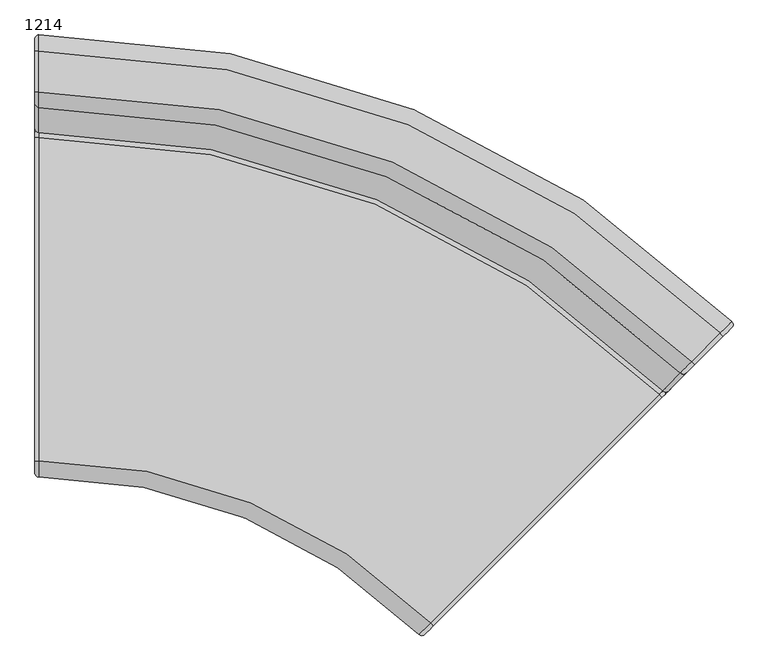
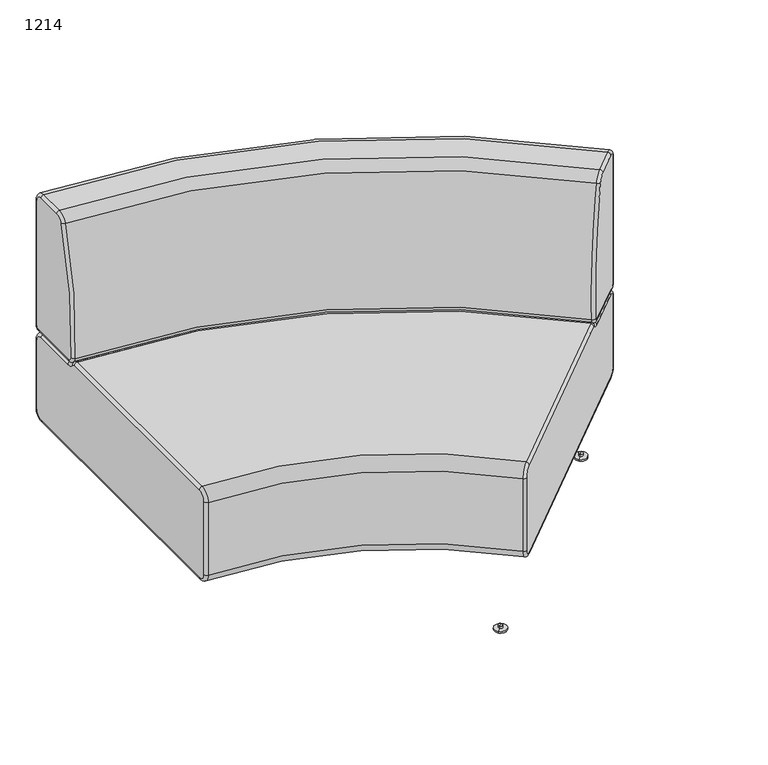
"""IFC4 building model written with IfcOpenShell, lengths in millimetres: furniture geometry, Laguna-Modular-Inside_Curve-ERG : 1214."""

from ifc_helpers import new_model, si_unit, point, frame, frame_2d, origin, place, context, project, spatial, polyline, circle_curve, ellipse_curve, trimmed, segment, composite_curve, outline, extrude, source, transform, mapped, element, save
from ifc_brep_helpers import plane_surface, cylinder_surface, revolved_surface, advanced_brep


def furniture_1214_7c59c296(model_context):
    return source(origin(), model_context, "Body", "SolidModel", [
        extrude(outline(composite_curve([segment(polyline([(-4215.8757096, 588.869549), (-4258.0829133, 631.0767528)]), True, "CONTINUOUS"), segment(trimmed(circle_curve(frame_2d((-4254.4908109, 634.6688552)), 5.08), [point((-4258.0829133, 631.0767528))], [point((-4258.0829133, 638.2609577))], False, "CARTESIAN"), True, "CONTINUOUS"), segment(polyline([(-4258.0829133, 638.2609577), (-4230.2441194, 666.0997517)]), True, "CONTINUOUS"), segment(trimmed(circle_curve(frame_2d((-4226.6520169, 662.5076492)), 5.08), [point((-4230.2441194, 666.0997517))], [point((-4223.0599145, 666.0997517))], False, "CARTESIAN"), True, "CONTINUOUS"), segment(polyline([(-4223.0599145, 666.0997517), (-4180.8527107, 623.8925479)]), True, "CONTINUOUS"), segment(trimmed(circle_curve(frame_2d((-4184.4448131, 620.3004454)), 5.08), [point((-4180.8527107, 623.8925479))], [point((-4180.8527107, 616.708343))], False, "CARTESIAN"), True, "CONTINUOUS"), segment(polyline([(-4180.8527107, 616.708343), (-4208.6915047, 588.869549)]), True, "CONTINUOUS"), segment(trimmed(circle_curve(frame_2d((-4212.2836071, 592.4616515)), 5.08), [point((-4208.6915047, 588.869549))], [point((-4215.8757096, 588.869549))], False, "CARTESIAN"), True, "CONTINUOUS")], self_intersect=False)), frame((0.0, 0.0, 200.66), z_axis=(0.0, 0.0, 1.0), x_axis=(1.0, 0.0, 0.0)), (0.0, 0.0, 1.0), 2.54),
        extrude(outline(composite_curve([segment(polyline([(-3832.6671258, 972.0781328), (-3874.8743295, 1014.2853366)]), True, "CONTINUOUS"), segment(trimmed(circle_curve(frame_2d((-3871.2822271, 1017.877439)), 5.08), [point((-3874.8743295, 1014.2853366))], [point((-3874.8743295, 1021.4695415))], False, "CARTESIAN"), True, "CONTINUOUS"), segment(polyline([(-3874.8743295, 1021.4695415), (-3847.0355356, 1049.3083354)]), True, "CONTINUOUS"), segment(trimmed(circle_curve(frame_2d((-3843.4434331, 1045.716233)), 5.08), [point((-3847.0355356, 1049.3083354))], [point((-3839.8513307, 1049.3083354))], False, "CARTESIAN"), True, "CONTINUOUS"), segment(polyline([(-3839.8513307, 1049.3083354), (-3797.6441269, 1007.1011317)]), True, "CONTINUOUS"), segment(trimmed(circle_curve(frame_2d((-3801.2362294, 1003.5090292)), 5.08), [point((-3797.6441269, 1007.1011317))], [point((-3797.6441269, 999.9169268))], False, "CARTESIAN"), True, "CONTINUOUS"), segment(polyline([(-3797.6441269, 999.9169268), (-3825.4829209, 972.0781328)]), True, "CONTINUOUS"), segment(trimmed(circle_curve(frame_2d((-3829.0750233, 975.6702353)), 5.08), [point((-3825.4829209, 972.0781328))], [point((-3832.6671258, 972.0781328))], False, "CARTESIAN"), True, "CONTINUOUS")], self_intersect=False)), frame((0.0, 0.0, 200.66), z_axis=(0.0, 0.0, 1.0), x_axis=(1.0, 0.0, 0.0)), (0.0, 0.0, 1.0), 2.54),
        extrude(outline(composite_curve([segment(trimmed(circle_curve(frame_2d((-4739.5606322, 875.9836827)), 5.08), [point((-4739.5606322, 881.0636827))], [point((-4734.4806322, 875.9836827))], False, "CARTESIAN"), True, "CONTINUOUS"), segment(polyline([(-4734.4806322, 875.9836827), (-4734.4806322, 836.6136827)]), True, "CONTINUOUS"), segment(trimmed(circle_curve(frame_2d((-4739.5606322, 836.6136827)), 5.08), [point((-4734.4806322, 836.6136827))], [point((-4739.5606322, 831.5336827))], False, "CARTESIAN"), True, "CONTINUOUS"), segment(polyline([(-4739.5606322, 831.5336827), (-4799.2506322, 831.5336827)]), True, "CONTINUOUS"), segment(trimmed(circle_curve(frame_2d((-4799.2506322, 836.6136827)), 5.08), [point((-4799.2506322, 831.5336827))], [point((-4804.3306322, 836.6136827))], False, "CARTESIAN"), True, "CONTINUOUS"), segment(polyline([(-4804.3306322, 836.6136827), (-4804.3306322, 875.9836827)]), True, "CONTINUOUS"), segment(trimmed(circle_curve(frame_2d((-4799.2506322, 875.9836827)), 5.08), [point((-4804.3306322, 875.9836827))], [point((-4799.2506322, 881.0636827))], False, "CARTESIAN"), True, "CONTINUOUS"), segment(polyline([(-4799.2506322, 881.0636827), (-4739.5606322, 881.0636827)]), True, "CONTINUOUS")], self_intersect=False)), frame((0.0, 0.0, 200.66), z_axis=(0.0, 0.0, 1.0), x_axis=(1.0, 0.0, 0.0)), (0.0, 0.0, 1.0), 2.54),
        extrude(outline(composite_curve([segment(trimmed(circle_curve(frame_2d((-4739.5606322, 1416.9001303)), 5.08), [point((-4739.5606322, 1421.9801303))], [point((-4734.4806322, 1416.9001303))], False, "CARTESIAN"), True, "CONTINUOUS"), segment(polyline([(-4734.4806322, 1416.9001303), (-4734.4806322, 1377.5301303)]), True, "CONTINUOUS"), segment(trimmed(circle_curve(frame_2d((-4739.5606322, 1377.5301303)), 5.08), [point((-4734.4806322, 1377.5301303))], [point((-4739.5606322, 1372.4501303))], False, "CARTESIAN"), True, "CONTINUOUS"), segment(polyline([(-4739.5606322, 1372.4501303), (-4799.2506322, 1372.4501303)]), True, "CONTINUOUS"), segment(trimmed(circle_curve(frame_2d((-4799.2506322, 1377.5301303)), 5.08), [point((-4799.2506322, 1372.4501303))], [point((-4804.3306322, 1377.5301303))], False, "CARTESIAN"), True, "CONTINUOUS"), segment(polyline([(-4804.3306322, 1377.5301303), (-4804.3306322, 1416.9001303)]), True, "CONTINUOUS"), segment(trimmed(circle_curve(frame_2d((-4799.2506322, 1416.9001303)), 5.08), [point((-4804.3306322, 1416.9001303))], [point((-4799.2506322, 1421.9801303))], False, "CARTESIAN"), True, "CONTINUOUS"), segment(polyline([(-4799.2506322, 1421.9801303), (-4739.5606322, 1421.9801303)]), True, "CONTINUOUS")], self_intersect=False)), frame((0.0, 0.0, 200.66), z_axis=(0.0, 0.0, 1.0), x_axis=(1.0, 0.0, 0.0)), (0.0, 0.0, 1.0), 2.54),
        advanced_brep(
        [(-4832.9053779, 780.0986827, 228.6), (-4826.5553779, 773.7486827, 228.6), (-4826.5553779, 773.7486827, 406.4), (-4832.9053779, 780.0986827, 406.4), (-4832.9053779, 799.1486827, 425.45), (-4826.5553779, 799.1486827, 431.8), (-4826.5553779, 1301.2233489, 431.8), (-4832.9053779, 1301.2233489, 425.45), (-4826.5553779, 1312.6430873, 426.1507973), (-4832.9053779, 1307.5957246, 422.2976649), (-4826.5553779, 1326.8961182, 419.1), (-4832.9053779, 1326.8961182, 412.75), (-4826.5553779, 1435.2886296, 419.1), (-4832.9053779, 1435.2886296, 412.75), (-4826.5553779, 1460.6886296, 393.7), (-4832.9053779, 1454.3386296, 393.7), (-4826.5553779, 1460.6886296, 228.6), (-4832.9053779, 1454.3386296, 228.6), (-4826.5553779, 1435.2886296, 203.2), (-4832.9053779, 1435.2886296, 209.55), (-4826.5553779, 799.1486827, 203.2), (-4832.9053779, 799.1486827, 209.55), (-3863.7246952, 902.4058218, 431.8), (-4218.7450963, 547.3854207, 431.8), (-3855.6497206, 910.4807963, 426.1507973), (-3845.5713058, 920.5592111, 419.1), (-3768.9262375, 997.2042795, 419.1), (-3750.9657138, 1015.1648032, 393.7), (-3750.9657138, 1015.1648032, 228.6000108), (-3768.926226, 997.2042909, 203.2), (-4218.7450963, 547.3854207, 203.2), (-4236.7056085, 529.4249085, 406.4), (-4236.7056085, 529.4249085, 228.6), (-3764.436098, 992.7141629, 209.55), (-3750.9657138, 1006.184547, 228.6), (-3750.9657138, 1006.184547, 393.7), (-3764.436098, 992.7141629, 412.75), (-3841.0811778, 916.0690831, 412.75), (-3854.728617, 902.4216438, 422.2976649), (-3859.2345671, 897.9156937, 425.45), (-4214.2549682, 542.8952926, 425.45), (-4227.7253524, 529.4249085, 406.4), (-4227.7253524, 529.4249085, 228.6), (-4214.2549682, 542.8952926, 209.55)],
        [
            (0, 1, circle_curve(frame((-4826.5553779, 780.0986827, 228.6), z_axis=(0.0, 0.0, 1.0), x_axis=(0.0, 1.0, 0.0)), 6.35)),
            (1, 2),
            (2, 3, circle_curve(frame((-4826.5553779, 780.0986827, 406.4), z_axis=(0.0, 0.0, -1.0), x_axis=(0.0, 1.0, 0.0)), 6.35)),
            (3, 0),
            (4, 5, circle_curve(frame((-4826.5553779, 799.1486827, 425.45), z_axis=(0.0, 1.0, 0.0), x_axis=(0.0, 0.0, -1.0)), 6.35)),
            (5, 6),
            (6, 7, circle_curve(frame((-4826.5553779, 1301.2233489, 425.45), z_axis=(0.0, -1.0, 0.0), x_axis=(0.0, 0.0, -1.0)), 6.35)),
            (7, 4),
            (6, 8, circle_curve(frame((-4826.5553779, 1301.2233489, 417.4330241), z_axis=(-1.0, 0.0, 0.0), x_axis=(0.0, 0.0, 1.0)), 14.3669759)),
            (8, 9, circle_curve(frame((-4826.5553779, 1307.5957246, 422.2976649), z_axis=(0.0, -0.6067924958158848, 0.7948602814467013), x_axis=(0.0, -0.7948602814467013, -0.6067924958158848)), 6.35)),
            (9, 7, circle_curve(frame((-4832.9053779, 1301.2233489, 417.4330241), z_axis=(1.0, 0.0, 0.0), x_axis=(0.0, 0.0, 1.0)), 8.0169759)),
            (8, 10, circle_curve(frame((-4826.5553779, 1326.8961182, 437.0314921), z_axis=(1.0, 0.0, 0.0), x_axis=(0.0, -0.7948602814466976, -0.6067924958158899)), 17.9314921)),
            (10, 11, circle_curve(frame((-4826.5553779, 1326.8961182, 412.75), z_axis=(0.0, -1.0, 0.0), x_axis=(0.0, 0.0, -1.0)), 6.35)),
            (11, 9, circle_curve(frame((-4832.9053779, 1326.8961182, 437.0314921), z_axis=(-1.0, 0.0, 0.0), x_axis=(0.0, -0.7948602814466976, -0.6067924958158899)), 24.2814921)),
            (10, 12),
            (12, 13, circle_curve(frame((-4826.5553779, 1435.2886296, 412.75), z_axis=(0.0, -1.0, 0.0), x_axis=(0.0, 0.0, -1.0)), 6.35)),
            (13, 11),
            (12, 14, circle_curve(frame((-4826.5553779, 1435.2886296, 393.7), z_axis=(-1.0, 0.0, 0.0), x_axis=(0.0, 0.0, 1.0)), 25.4)),
            (14, 15, circle_curve(frame((-4826.5553779, 1454.3386296, 393.7), z_axis=(0.0, 0.0, 1.0), x_axis=(0.0, -1.0, 0.0)), 6.35)),
            (15, 13, circle_curve(frame((-4832.9053779, 1435.2886296, 393.7), z_axis=(1.0, 0.0, 0.0), x_axis=(0.0, 0.0, 1.0)), 19.05)),
            (14, 16),
            (16, 17, circle_curve(frame((-4826.5553779, 1454.3386296, 228.6), z_axis=(0.0, 0.0, 1.0), x_axis=(0.0, -1.0, 0.0)), 6.35)),
            (17, 15),
            (16, 18, circle_curve(frame((-4826.5553779, 1435.2886296, 228.6), z_axis=(-1.0, 0.0, 0.0), x_axis=(0.0, 1.0, 0.0)), 25.4)),
            (18, 19, circle_curve(frame((-4826.5553779, 1435.2886296, 209.55), z_axis=(0.0, 1.0, 0.0), x_axis=(0.0, 0.0, 1.0)), 6.35)),
            (19, 17, circle_curve(frame((-4832.9053779, 1435.2886296, 228.6), z_axis=(1.0, 0.0, 0.0), x_axis=(0.0, 1.0, 0.0)), 19.05)),
            (18, 20),
            (20, 21, circle_curve(frame((-4826.5553779, 799.1486827, 209.55), z_axis=(0.0, 1.0, 0.0), x_axis=(0.0, 0.0, 1.0)), 6.35)),
            (21, 19),
            (2, 5, circle_curve(frame((-4826.5553779, 799.1486827, 406.4), z_axis=(-1.0, 0.0, 0.0), x_axis=(0.0, -1.0, 0.0)), 25.4)),
            (4, 3, circle_curve(frame((-4832.9053779, 799.1486827, 406.4), z_axis=(1.0, 0.0, 0.0), x_axis=(0.0, -1.0, 0.0)), 19.05)),
            (0, 21, circle_curve(frame((-4832.9053779, 799.1486827, 228.6), z_axis=(1.0, 0.0, 0.0), x_axis=(0.0, 0.0, -1.0)), 19.05)),
            (20, 1, circle_curve(frame((-4826.5553779, 799.1486827, 228.6), z_axis=(-1.0, 0.0, 0.0), x_axis=(0.0, 0.0, -1.0)), 25.4)),
            (22, 6, circle_curve(frame((-4826.5553779, -60.4248609, 431.8), z_axis=(0.0, 0.0, 1.0), x_axis=(0.0, 1.0, 0.0)), 1361.6482098)),
            (5, 23, circle_curve(frame((-4826.5553779, -60.4248609, 431.8), z_axis=(0.0, 0.0, -1.0), x_axis=(0.0, 1.0, 0.0)), 859.5735436)),
            (23, 22),
            (22, 24, circle_curve(frame((-3863.7246952, 902.4058218, 417.4330241), z_axis=(-0.7071067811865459, 0.7071067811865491, 0.0), x_axis=(0.7071067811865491, 0.7071067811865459, 0.0)), 14.3669759)),
            (24, 8, circle_curve(frame((-4826.5553779, -60.4248609, 426.1507973), z_axis=(0.0, 0.0, 1.0), x_axis=(0.0, 1.0, 0.0)), 1373.0679482)),
            (24, 25, circle_curve(frame((-3845.5713058, 920.5592111, 437.0314921), z_axis=(0.7071067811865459, -0.7071067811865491, 0.0), x_axis=(0.7071067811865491, 0.7071067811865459, 0.0)), 17.9314921)),
            (25, 10, circle_curve(frame((-4826.5553779, -60.4248609, 419.1), z_axis=(0.0, 0.0, 1.0), x_axis=(0.0, 1.0, 0.0)), 1387.3209791)),
            (25, 26),
            (26, 12, circle_curve(frame((-4826.5553779, -60.4248609, 419.1), z_axis=(0.0, 0.0, 1.0), x_axis=(0.0, 1.0, 0.0)), 1495.7134905)),
            (26, 27, circle_curve(frame((-3768.926226, 997.2042909, 393.7), z_axis=(-0.7071067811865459, 0.7071067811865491, 0.0), x_axis=(0.7071067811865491, 0.7071067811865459, 0.0)), 25.4)),
            (27, 14, circle_curve(frame((-4826.5553779, -60.4248609, 393.7), z_axis=(0.0, 0.0, 1.0), x_axis=(0.0, 1.0, 0.0)), 1521.1134905)),
            (27, 28),
            (28, 16, circle_curve(frame((-4826.5553779, -60.4248609, 228.6), z_axis=(0.0, 0.0, 1.0), x_axis=(0.0, 1.0, 0.0)), 1521.1134905)),
            (28, 29, circle_curve(frame((-3768.926226, 997.2042909, 228.6), z_axis=(-0.7071067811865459, 0.7071067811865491, 0.0), x_axis=(0.7071067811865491, 0.7071067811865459, 0.0)), 25.4)),
            (29, 18, circle_curve(frame((-4826.5553779, -60.4248609, 203.2), z_axis=(0.0, 0.0, 1.0), x_axis=(0.0, 1.0, 0.0)), 1495.7134905)),
            (29, 30),
            (30, 20, circle_curve(frame((-4826.5553779, -60.4248609, 203.2), z_axis=(0.0, 0.0, 1.0), x_axis=(0.0, 1.0, 0.0)), 859.5735436)),
            (31, 2, circle_curve(frame((-4826.5553779, -60.4248609, 406.4), z_axis=(0.0, 0.0, 1.0), x_axis=(0.0, 1.0, 0.0)), 834.1735436)),
            (1, 32, circle_curve(frame((-4826.5553779, -60.4248609, 228.6), z_axis=(0.0, 0.0, -1.0), x_axis=(0.0, 1.0, 0.0)), 834.1735436)),
            (32, 31),
            (31, 23, circle_curve(frame((-4218.7450963, 547.3854207, 406.4), z_axis=(-0.7071067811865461, 0.7071067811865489, 0.0), x_axis=(0.7071067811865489, 0.7071067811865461, 0.0)), 25.4)),
            (30, 32, circle_curve(frame((-4218.7450963, 547.3854207, 228.6), z_axis=(-0.7071067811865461, 0.7071067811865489, 0.0), x_axis=(0.7071067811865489, 0.7071067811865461, 0.0)), 25.4)),
            (33, 29, circle_curve(frame((-3768.926226, 997.2042909, 209.55), z_axis=(0.7071067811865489, 0.7071067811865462, 0.0), x_axis=(0.0, 0.0, 1.0)), 6.35)),
            (28, 34, circle_curve(frame((-3755.4558419, 1010.6746751, 228.6), z_axis=(0.0, 0.0, -1.0), x_axis=(-0.7071067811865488, -0.7071067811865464, 0.0)), 6.35)),
            (34, 33, circle_curve(frame((-3764.436098, 992.7141629, 228.6), z_axis=(-0.7071067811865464, 0.7071067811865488, 0.0), x_axis=(0.0, 0.0, -1.0)), 19.05)),
            (27, 35, circle_curve(frame((-3755.4558419, 1010.6746751, 393.7), z_axis=(0.0, 0.0, -1.0), x_axis=(-0.7071067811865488, -0.7071067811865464, 0.0)), 6.35)),
            (35, 34),
            (26, 36, circle_curve(frame((-3768.926226, 997.2042909, 412.75), z_axis=(0.7071067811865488, 0.7071067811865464, 0.0), x_axis=(0.0, 0.0, -1.0)), 6.35)),
            (36, 35, circle_curve(frame((-3764.436098, 992.7141629, 393.7), z_axis=(-0.7071067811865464, 0.7071067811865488, 0.0), x_axis=(0.7071067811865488, 0.7071067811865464, 0.0)), 19.05)),
            (25, 37, circle_curve(frame((-3845.5713058, 920.5592111, 412.75), z_axis=(0.7071067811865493, 0.7071067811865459, 0.0), x_axis=(0.0, 0.0, -1.0)), 6.35)),
            (37, 36),
            (24, 38, circle_curve(frame((-3859.2187451, 906.9117719, 422.2976649), z_axis=(0.4290670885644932, 0.4290670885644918, -0.7948602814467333), x_axis=(-0.5620510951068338, -0.5620510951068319, -0.6067924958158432)), 6.35)),
            (38, 37, circle_curve(frame((-3841.0811778, 916.0690831, 437.0314921), z_axis=(0.7071067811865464, -0.7071067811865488, 0.0), x_axis=(0.0, 0.0, -1.0)), 24.2814921)),
            (22, 39, circle_curve(frame((-3863.7246952, 902.4058218, 425.45), z_axis=(0.7071067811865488, 0.7071067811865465, 0.0), x_axis=(0.0, 0.0, -1.0)), 6.35)),
            (39, 38, circle_curve(frame((-3859.2345671, 897.9156937, 417.4330241), z_axis=(-0.7071067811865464, 0.7071067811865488, 0.0), x_axis=(0.5620510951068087, 0.5620510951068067, 0.6067924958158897)), 8.0169759)),
            (23, 40, circle_curve(frame((-4218.7450963, 547.3854207, 425.45), z_axis=(0.7071067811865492, 0.7071067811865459, 0.0), x_axis=(0.0, 0.0, -1.0)), 6.35)),
            (40, 39),
            (41, 31, circle_curve(frame((-4232.2154804, 533.9150365, 406.4), z_axis=(0.0, 0.0, -1.0), x_axis=(0.7071067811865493, 0.7071067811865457, 0.0)), 6.35)),
            (32, 42, circle_curve(frame((-4232.2154804, 533.9150365, 228.6), z_axis=(0.0, 0.0, 1.0), x_axis=(0.7071067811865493, 0.7071067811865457, 0.0)), 6.35)),
            (42, 41),
            (33, 43),
            (43, 30, circle_curve(frame((-4218.7450963, 547.3854207, 209.55), z_axis=(0.7071067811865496, 0.7071067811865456, 0.0), x_axis=(0.0, 0.0, 1.0)), 6.35)),
            (41, 40, circle_curve(frame((-4214.2549682, 542.8952926, 406.4), z_axis=(-0.7071067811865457, 0.7071067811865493, 0.0), x_axis=(0.0, 0.0, 1.0)), 19.05)),
            (43, 42, circle_curve(frame((-4214.2549682, 542.8952926, 228.6), z_axis=(-0.7071067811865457, 0.7071067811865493, 0.0), x_axis=(-0.7071067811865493, -0.7071067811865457, 0.0)), 19.05)),
        ],
        [
            cylinder_surface(frame((-4826.5553779, 780.0986827, 228.6), z_axis=(0.0, 0.0, -1.0), x_axis=(0.0, 1.0, 0.0)), 6.35),
            cylinder_surface(frame((-4826.5553779, 799.1486827, 425.45), z_axis=(0.0, -1.0, 0.0), x_axis=(0.0, 0.0, -1.0)), 6.35),
            revolved_surface(trimmed(ellipse_curve(frame((-4826.5553779, 1301.2233489, 425.45), z_axis=(0.0, -1.0, 0.0), x_axis=(0.0, 0.0, -1.0)), 6.35, 6.35), [point((-4826.5553779, 1301.2233489, 431.8))], [point((-4832.9053779, 1301.2233489, 425.45))], True, "CARTESIAN"), (-4826.5553779, 1301.2233489, 417.4330241), (-1.0, 0.0, 0.0)),
            revolved_surface(trimmed(ellipse_curve(frame((-4826.5553779, 1307.5957246, 422.2976649), z_axis=(0.0, -0.6067924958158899, 0.7948602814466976), x_axis=(0.0, -0.7948602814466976, -0.6067924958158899)), 6.35, 6.35), [point((-4826.5553779, 1312.6430873, 426.1507973))], [point((-4832.9053779, 1307.5957246, 422.2976649))], True, "CARTESIAN"), (-4826.5553779, 1326.8961182, 437.0314921), (1.0, 0.0, 0.0)),
            cylinder_surface(frame((-4826.5553779, 1326.8961182, 412.75), z_axis=(0.0, -1.0, 0.0), x_axis=(0.0, 0.0, -1.0)), 6.35),
            revolved_surface(trimmed(ellipse_curve(frame((-4826.5553779, 1435.2886296, 412.75), z_axis=(0.0, -1.0, 0.0), x_axis=(0.0, 0.0, -1.0)), 6.35, 6.35), [point((-4826.5553779, 1435.2886296, 419.1))], [point((-4832.9053779, 1435.2886296, 412.75))], True, "CARTESIAN"), (-4826.5553779, 1435.2886296, 393.7), (-1.0, 0.0, 0.0)),
            cylinder_surface(frame((-4826.5553779, 1454.3386296, 393.7), z_axis=(0.0, 0.0, 1.0), x_axis=(0.0, -1.0, 0.0)), 6.35),
            revolved_surface(trimmed(ellipse_curve(frame((-4826.5553779, 1454.3386296, 228.6), z_axis=(0.0, 0.0, 1.0), x_axis=(0.0, -1.0, 0.0)), 6.35, 6.35), [point((-4826.5553779, 1460.6886296, 228.6))], [point((-4832.9053779, 1454.3386296, 228.6))], True, "CARTESIAN"), (-4826.5553779, 1435.2886296, 228.6), (-1.0, 0.0, 0.0)),
            cylinder_surface(frame((-4826.5553779, 1435.2886296, 209.55), z_axis=(0.0, 1.0, 0.0), x_axis=(0.0, 0.0, 1.0)), 6.35),
            revolved_surface(trimmed(ellipse_curve(frame((-4826.5553779, 780.0986827, 406.4), z_axis=(0.0, 0.0, -1.0), x_axis=(0.0, 1.0, 0.0)), 6.35, 6.35), [point((-4826.5553779, 773.7486827, 406.4))], [point((-4832.9053779, 780.0986827, 406.4))], True, "CARTESIAN"), (-4826.5553779, 799.1486827, 406.4), (-1.0, 0.0, 0.0)),
            revolved_surface(trimmed(ellipse_curve(frame((-4826.5553779, 799.1486827, 209.55), z_axis=(0.0, 1.0, 0.0), x_axis=(0.0, 0.0, 1.0)), 6.35, 6.35), [point((-4826.5553779, 799.1486827, 203.2))], [point((-4832.9053779, 799.1486827, 209.55))], True, "CARTESIAN"), (-4826.5553779, 799.1486827, 228.6), (-1.0, 0.0, 0.0)),
            plane_surface(frame((-4832.9053779, 1454.3386296, 228.6), z_axis=(-1.0, 0.0, 0.0), x_axis=(0.0, 0.0, -1.0))),
            plane_surface(frame((-4826.5553779, -60.4248609, 431.8), z_axis=(0.0, 0.0, 1.0), x_axis=(0.0, 1.0, 0.0))),
            revolved_surface(trimmed(ellipse_curve(frame((-4826.5553779, 1301.2233489, 417.4330241), z_axis=(-1.0, 0.0, 0.0), x_axis=(0.0, 1.0, 0.0)), 14.3669759, 14.3669759), [point((-4826.5553779, 1301.2233489, 431.8))], [point((-4826.5553779, 1312.6430873, 426.1507973))], True, "CARTESIAN"), (-4826.5553779, -60.4248609, 0.0), (0.0, 0.0, -1.0)),
            revolved_surface(trimmed(ellipse_curve(frame((-4826.5553779, 1326.8961182, 437.0314921), z_axis=(1.0, 0.0, 0.0), x_axis=(0.0, 1.0, 0.0)), 17.9314921, 17.9314921), [point((-4826.5553779, 1312.6430873, 426.1507973))], [point((-4826.5553779, 1326.8961182, 419.1))], True, "CARTESIAN"), (-4826.5553779, -60.4248609, 0.0), (0.0, 0.0, -1.0)),
            plane_surface(frame((-4826.5553779, -60.4248609, 419.1), z_axis=(0.0, 0.0, 1.0), x_axis=(0.0, 1.0, 0.0))),
            revolved_surface(trimmed(ellipse_curve(frame((-4826.5553779, 1435.2886296, 393.7), z_axis=(-1.0, 0.0, 0.0), x_axis=(0.0, 1.0, 0.0)), 25.4, 25.4), [point((-4826.5553779, 1435.2886296, 419.1))], [point((-4826.5553779, 1460.6886296, 393.7))], True, "CARTESIAN"), (-4826.5553779, -60.4248609, 0.0), (0.0, 0.0, -1.0)),
            cylinder_surface(frame((-4826.5553779, -60.4248609, 0.0), z_axis=(0.0, 0.0, -1.0), x_axis=(0.0, 1.0, 0.0)), 1521.1134905),
            revolved_surface(trimmed(ellipse_curve(frame((-4826.5553779, 1435.2886296, 228.6), z_axis=(-1.0, 0.0, 0.0), x_axis=(0.0, 1.0, 0.0)), 25.4, 25.4), [point((-4826.5553779, 1460.6886296, 228.6))], [point((-4826.5553779, 1435.2886296, 203.2))], True, "CARTESIAN"), (-4826.5553779, -60.4248609, 0.0), (0.0, 0.0, -1.0)),
            plane_surface(frame((-4826.5553779, -60.4248609, 203.2), z_axis=(0.0, 0.0, -1.0), x_axis=(0.0, 1.0, 0.0))),
            revolved_surface(polyline([(-4826.5553779, 773.7486827, 228.6), (-4826.5553779, 773.7486827, 406.4)]), (-4826.5553779, -60.4248609, 0.0), (0.0, 0.0, -1.0)),
            revolved_surface(trimmed(ellipse_curve(frame((-4826.5553779, 799.1486827, 406.4), z_axis=(-1.0, 0.0, 0.0), x_axis=(0.0, 1.0, 0.0)), 25.4, 25.4), [point((-4826.5553779, 773.7486827, 406.4))], [point((-4826.5553779, 799.1486827, 431.8))], True, "CARTESIAN"), (-4826.5553779, -60.4248609, 0.0), (0.0, 0.0, -1.0)),
            revolved_surface(trimmed(ellipse_curve(frame((-4826.5553779, 799.1486827, 228.6), z_axis=(-1.0, 0.0, 0.0), x_axis=(0.0, 1.0, 0.0)), 25.4, 25.4), [point((-4826.5553779, 799.1486827, 203.2))], [point((-4826.5553779, 773.7486827, 228.6))], True, "CARTESIAN"), (-4826.5553779, -60.4248609, 0.0), (0.0, 0.0, -1.0)),
            revolved_surface(trimmed(ellipse_curve(frame((-3768.926226, 997.2042909, 209.55), z_axis=(-0.7071067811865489, -0.7071067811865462, 0.0), x_axis=(0.0, 0.0, 1.0)), 6.35, 6.35), [point((-3768.926226, 997.2042909, 203.2))], [point((-3764.436098, 992.7141629, 209.55))], True, "CARTESIAN"), (-3768.926226, 997.2042909, 228.6), (0.7071067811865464, -0.7071067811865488, 0.0)),
            cylinder_surface(frame((-3755.4558419, 1010.6746751, 228.6), z_axis=(0.0, 0.0, -1.0), x_axis=(-0.7071067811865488, -0.7071067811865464, 0.0)), 6.35),
            revolved_surface(trimmed(ellipse_curve(frame((-3755.4558419, 1010.6746751, 393.7), z_axis=(0.0, 0.0, -1.0), x_axis=(-0.7071067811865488, -0.7071067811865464, 0.0)), 6.35, 6.35), [point((-3750.9657138, 1015.1648032, 393.7))], [point((-3750.9657138, 1006.184547, 393.7))], True, "CARTESIAN"), (-3768.926226, 997.2042909, 393.7), (0.7071067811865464, -0.7071067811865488, 0.0)),
            cylinder_surface(frame((-3768.926226, 997.2042909, 412.75), z_axis=(0.7071067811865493, 0.7071067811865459, 0.0), x_axis=(0.0, 0.0, -1.0)), 6.35),
            revolved_surface(trimmed(ellipse_curve(frame((-3845.5713058, 920.5592111, 412.75), z_axis=(0.7071067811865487, 0.7071067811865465, 0.0), x_axis=(0.0, 0.0, -1.0)), 6.35, 6.35), [point((-3845.5713058, 920.5592111, 419.1))], [point((-3841.0811778, 916.0690831, 412.75))], True, "CARTESIAN"), (-3845.5713058, 920.5592111, 437.0314921), (-0.7071067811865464, 0.7071067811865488, 0.0)),
            revolved_surface(trimmed(ellipse_curve(frame((-3859.2187451, 906.9117719, 422.2976649), z_axis=(0.4290670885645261, 0.4290670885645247, -0.7948602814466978), x_axis=(-0.5620510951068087, -0.5620510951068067, -0.6067924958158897)), 6.35, 6.35), [point((-3855.6497206, 910.4807963, 426.1507973))], [point((-3854.728617, 902.4216438, 422.2976649))], True, "CARTESIAN"), (-3863.7246952, 902.4058218, 417.4330241), (0.7071067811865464, -0.7071067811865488, 0.0)),
            cylinder_surface(frame((-3863.7246952, 902.4058218, 425.45), z_axis=(0.7071067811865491, 0.7071067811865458, 0.0), x_axis=(0.0, 0.0, -1.0)), 6.35),
            cylinder_surface(frame((-4232.2154804, 533.9150365, 406.4), z_axis=(0.0, 0.0, 1.0), x_axis=(0.7071067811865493, 0.7071067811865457, 0.0)), 6.35),
            cylinder_surface(frame((-4218.7450963, 547.3854207, 209.55), z_axis=(-0.7071067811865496, -0.7071067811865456, 0.0), x_axis=(0.0, 0.0, 1.0)), 6.35),
            revolved_surface(trimmed(ellipse_curve(frame((-4218.7450963, 547.3854207, 425.45), z_axis=(0.7071067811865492, 0.7071067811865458, 0.0), x_axis=(0.0, 0.0, -1.0)), 6.35, 6.35), [point((-4218.7450963, 547.3854207, 431.8))], [point((-4214.2549682, 542.8952926, 425.45))], True, "CARTESIAN"), (-4218.7450963, 547.3854207, 406.4), (0.7071067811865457, -0.7071067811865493, 0.0)),
            revolved_surface(trimmed(ellipse_curve(frame((-4232.2154804, 533.9150365, 228.6), z_axis=(0.0, 0.0, 1.0), x_axis=(0.7071067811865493, 0.7071067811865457, 0.0)), 6.35, 6.35), [point((-4236.7056085, 529.4249085, 228.6))], [point((-4227.7253524, 529.4249085, 228.6))], True, "CARTESIAN"), (-4218.7450963, 547.3854207, 228.6), (0.7071067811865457, -0.7071067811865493, 0.0)),
            plane_surface(frame((-4214.2549682, 542.8952926, 425.45), z_axis=(0.7071067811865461, -0.707106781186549, 0.0), x_axis=(-0.707106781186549, -0.7071067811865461, 0.0))),
        ],
        [
            (0, [[1, 2, 3, 4]]),
            (1, [[5, 6, 7, 8]]),
            (2, [[-7, 9, 10, 11]]),
            (3, [[-10, 12, 13, 14]]),
            (4, [[-13, 15, 16, 17]]),
            (5, [[-16, 18, 19, 20]]),
            (6, [[-19, 21, 22, 23]]),
            (7, [[-22, 24, 25, 26]]),
            (8, [[-25, 27, 28, 29]]),
            (9, [[-3, 30, -5, 31]]),
            (10, [[-1, 32, -28, 33]]),
            (11, [[-4, -31, -8, -11, -14, -17, -20, -23, -26, -29, -32]]),
            (12, [[34, -6, 35, 36]]),
            (13, [[-34, 37, 38, -9]]),
            (14, [[-38, 39, 40, -12]]),
            (15, [[-40, 41, 42, -15]]),
            (16, [[-42, 43, 44, -18]]),
            (17, [[-44, 45, 46, -21]]),
            (18, [[-46, 47, 48, -24]]),
            (19, [[-48, 49, 50, -27]]),
            (20, [[51, -2, 52, 53]]),
            (21, [[-35, -30, -51, 54]]),
            (22, [[-50, 55, -52, -33]]),
            (23, [[56, -47, 57, 58]]),
            (24, [[-57, -45, 59, 60]]),
            (25, [[-59, -43, 61, 62]]),
            (26, [[-61, -41, 63, 64]]),
            (27, [[-63, -39, 65, 66]]),
            (28, [[-65, -37, 67, 68]]),
            (29, [[-67, -36, 69, 70]]),
            (30, [[71, -53, 72, 73]]),
            (31, [[-56, 74, 75, -49]]),
            (32, [[-69, -54, -71, 76]]),
            (33, [[-72, -55, -75, 77]]),
            (34, [[-58, -60, -62, -64, -66, -68, -70, -76, -73, -77, -74]]),
        ],
    ),
        advanced_brep(
        [(-3809.1757886, 947.9744723, 755.65), (-3813.6659166, 952.4646003, 762.0), (-3830.760509, 935.370008, 744.3916508), (-3821.9967328, 935.153528, 742.4437381), (-3858.2270111, 907.9035059, 435.9339217), (-3849.2551741, 907.8950868, 436.3225994), (-3845.5713058, 920.5592111, 419.1), (-3841.0811778, 916.0690831, 425.45), (-3759.9459699, 1006.184547, 419.1), (-3755.4558419, 1001.694419, 425.45), (-3750.9657138, 1015.1648032, 431.8), (-3750.9657138, 1006.184547, 431.8), (-3750.9657138, 1015.1648032, 736.6), (-3750.9657138, 1006.184547, 736.6), (-3768.926226, 997.2042909, 762.0), (-3764.436098, 992.7141629, 755.65), (-4826.5553779, 1372.0171524, 762.0), (-4826.5553779, 1347.841748, 744.3916508), (-4826.5553779, 1435.2886296, 762.0), (-4826.5553779, 1460.6886296, 736.6), (-4826.5553779, 1460.6886296, 431.8), (-4826.5553779, 1447.9886296, 419.1), (-4826.5553779, 1326.8961182, 419.1), (-4826.5553779, 1308.9982483, 435.9339217), (-4832.9053779, 1454.3386296, 431.8), (-4832.9053779, 1447.9886296, 425.45), (-4832.9053779, 1326.8961182, 425.45), (-4832.9053779, 1315.3363418, 436.3225994), (-4832.9053779, 1353.8855991, 742.4437381), (-4832.9053779, 1372.0171524, 755.65), (-4832.9053779, 1435.2886296, 755.65), (-4832.9053779, 1454.3386296, 736.6)],
        [
            (0, 1, circle_curve(frame((-3813.6659166, 952.4646003, 755.65), z_axis=(-0.7071067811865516, -0.7071067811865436, 0.0), x_axis=(0.0, 0.0, -1.0)), 6.35)),
            (1, 2, circle_curve(frame((-3813.6659166, 952.4646003, 736.6), z_axis=(0.7071067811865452, -0.7071067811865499, 0.0), x_axis=(0.0, 0.0, 1.0)), 25.4)),
            (2, 3, circle_curve(frame((-3826.4868609, 939.6436561, 742.4437381), z_axis=(0.21691059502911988, 0.2169105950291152, 0.9517875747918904), x_axis=(0.6730154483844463, 0.6730154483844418, -0.30675790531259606)), 6.35)),
            (3, 0, circle_curve(frame((-3809.1757886, 947.9744723, 736.6), z_axis=(-0.7071067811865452, 0.7071067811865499, 0.0), x_axis=(0.0, 0.0, 1.0)), 19.05)),
            (2, 4, circle_curve(frame((-3266.588139, 1499.5423779, 487.2440105), z_axis=(0.7071067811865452, -0.7071067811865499, 0.0), x_axis=(-0.6730154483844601, -0.6730154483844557, 0.306757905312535)), 838.2755126)),
            (4, 5, circle_curve(frame((-3853.7453021, 912.3852148, 436.3225994), z_axis=(-0.043281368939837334, -0.043281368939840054, 0.99812496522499), x_axis=(0.7057809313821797, 0.7057809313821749, 0.06120909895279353)), 6.35)),
            (5, 3, circle_curve(frame((-3262.098011, 1495.0522499, 487.2440105), z_axis=(-0.7071067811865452, 0.7071067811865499, 0.0), x_axis=(-0.6730154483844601, -0.6730154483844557, 0.306757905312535)), 831.9255126)),
            (4, 6, circle_curve(frame((-3845.5713058, 920.5592111, 437.0314921), z_axis=(0.7071067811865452, -0.7071067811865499, 0.0), x_axis=(-0.7057809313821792, -0.7057809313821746, -0.06120909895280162)), 17.9314921)),
            (6, 7, circle_curve(frame((-3845.5713058, 920.5592111, 425.45), z_axis=(-0.7071067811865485, -0.7071067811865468, 0.0), x_axis=(0.0, 0.0, 1.0000000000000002)), 6.35)),
            (7, 5, circle_curve(frame((-3841.0811778, 916.0690831, 437.0314921), z_axis=(-0.7071067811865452, 0.7071067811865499, 0.0), x_axis=(-0.7057809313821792, -0.7057809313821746, -0.06120909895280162)), 11.5814921)),
            (6, 8),
            (8, 9, circle_curve(frame((-3759.9459699, 1006.184547, 425.45), z_axis=(-0.7071067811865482, -0.7071067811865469, 0.0), x_axis=(0.0, 0.0, 1.0)), 6.35)),
            (9, 7),
            (8, 10, circle_curve(frame((-3759.9459699, 1006.184547, 431.8), z_axis=(0.7071067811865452, -0.7071067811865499, 0.0), x_axis=(0.0, 0.0, -1.0)), 12.7)),
            (10, 11, circle_curve(frame((-3755.4558419, 1010.6746751, 431.8), z_axis=(0.0, 0.0, -1.0), x_axis=(-0.7071067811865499, -0.7071067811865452, 0.0)), 6.35)),
            (11, 9, circle_curve(frame((-3755.4558419, 1001.694419, 431.8), z_axis=(-0.7071067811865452, 0.7071067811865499, 0.0), x_axis=(0.0, 0.0, -1.0)), 6.35)),
            (10, 12),
            (12, 13, circle_curve(frame((-3755.4558419, 1010.6746751, 736.6), z_axis=(0.0, 0.0, -1.0), x_axis=(-0.7071067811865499, -0.7071067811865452, 0.0)), 6.35)),
            (13, 11),
            (12, 14, circle_curve(frame((-3768.926226, 997.2042909, 736.6), z_axis=(0.7071067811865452, -0.7071067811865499, 0.0), x_axis=(0.7071067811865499, 0.7071067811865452, 0.0)), 25.4)),
            (14, 15, circle_curve(frame((-3768.926226, 997.2042909, 755.65), z_axis=(0.7071067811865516, 0.7071067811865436, 0.0), x_axis=(0.0, 0.0, -1.0)), 6.35)),
            (15, 13, circle_curve(frame((-3764.436098, 992.7141629, 736.6), z_axis=(-0.7071067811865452, 0.7071067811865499, 0.0), x_axis=(0.7071067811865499, 0.7071067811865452, 0.0)), 19.05)),
            (0, 15),
            (14, 1),
            (1, 16, circle_curve(frame((-4826.5553779, -60.4248609, 762.0), z_axis=(0.0, 0.0, 1.0), x_axis=(0.0, 1.0, 0.0)), 1432.4420133)),
            (16, 17, circle_curve(frame((-4826.5553779, 1372.0171524, 736.6), z_axis=(1.0, 0.0, 0.0), x_axis=(0.0, 1.0, 0.0)), 25.4)),
            (17, 2, circle_curve(frame((-4826.5553779, -60.4248609, 744.3916508), z_axis=(0.0, 0.0, -1.0), x_axis=(0.0, 1.0, 0.0)), 1408.2666089)),
            (14, 18, circle_curve(frame((-4826.5553779, -60.4248609, 762.0), z_axis=(0.0, 0.0, 1.0), x_axis=(0.0, 1.0, 0.0)), 1495.7134905)),
            (18, 16),
            (12, 19, circle_curve(frame((-4826.5553779, -60.4248609, 736.6), z_axis=(0.0, 0.0, 1.0), x_axis=(0.0, 1.0, 0.0)), 1521.1134905)),
            (19, 18, circle_curve(frame((-4826.5553779, 1435.2886296, 736.6), z_axis=(1.0, 0.0, 0.0), x_axis=(0.0, 1.0, 0.0)), 25.4)),
            (10, 20, circle_curve(frame((-4826.5553779, -60.4248609, 431.8), z_axis=(0.0, 0.0, 1.0), x_axis=(0.0, 1.0, 0.0)), 1521.1134905)),
            (20, 19),
            (8, 21, circle_curve(frame((-4826.5553779, -60.4248609, 419.1), z_axis=(0.0, 0.0, 1.0), x_axis=(0.0, 1.0, 0.0)), 1508.4134905)),
            (21, 20, circle_curve(frame((-4826.5553779, 1447.9886296, 431.8), z_axis=(1.0, 0.0, 0.0), x_axis=(0.0, 1.0, 0.0)), 12.7)),
            (6, 22, circle_curve(frame((-4826.5553779, -60.4248609, 419.1), z_axis=(0.0, 0.0, 1.0), x_axis=(0.0, 1.0, 0.0)), 1387.3209791)),
            (22, 21),
            (4, 23, circle_curve(frame((-4826.5553779, -60.4248609, 435.9339217), z_axis=(0.0, 0.0, 1.0), x_axis=(0.0, 1.0, 0.0)), 1369.4231092)),
            (23, 22, circle_curve(frame((-4826.5553779, 1326.8961182, 437.0314921), z_axis=(1.0, 0.0, 0.0), x_axis=(0.0, 1.0, 0.0)), 17.9314921)),
            (17, 23, circle_curve(frame((-4826.5553779, 2145.7019651, 487.2440105), z_axis=(1.0, 0.0, 0.0), x_axis=(0.0, 1.0, 0.0)), 838.2755126)),
            (24, 20, circle_curve(frame((-4826.5553779, 1454.3386296, 431.8), z_axis=(0.0, 0.0, -1.0), x_axis=(-1.0, 0.0, 0.0)), 6.35)),
            (21, 25, circle_curve(frame((-4826.5553779, 1447.9886296, 425.45), z_axis=(0.0, 1.0, 0.0), x_axis=(-1.0, 0.0, 0.0)), 6.35)),
            (25, 24, circle_curve(frame((-4832.9053779, 1447.9886296, 431.8), z_axis=(1.0, 0.0, 0.0), x_axis=(0.0, 1.0, 0.0)), 6.35)),
            (22, 26, circle_curve(frame((-4826.5553779, 1326.8961182, 425.45), z_axis=(0.0, 1.0, 0.0), x_axis=(-1.0, 0.0, 0.0)), 6.35)),
            (26, 25),
            (23, 27, circle_curve(frame((-4826.5553779, 1315.3363418, 436.3225994), z_axis=(0.0, 0.06120909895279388, -0.9981249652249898), x_axis=(-1.0, 0.0, 0.0)), 6.35)),
            (27, 26, circle_curve(frame((-4832.9053779, 1326.8961182, 437.0314921), z_axis=(1.0, 0.0, 0.0), x_axis=(0.0, 0.0, -1.0)), 11.5814921)),
            (17, 28, circle_curve(frame((-4826.5553779, 1353.8855991, 742.4437381), z_axis=(0.0, -0.306757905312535, -0.9517875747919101), x_axis=(-1.0, 0.0, 0.0)), 6.35)),
            (28, 27, circle_curve(frame((-4832.9053779, 2145.7019651, 487.2440105), z_axis=(1.0, 0.0, 0.0), x_axis=(0.0, -0.9981249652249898, -0.06120909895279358)), 831.9255126)),
            (16, 29, circle_curve(frame((-4826.5553779, 1372.0171524, 755.65), z_axis=(0.0, -1.0, 0.0), x_axis=(-1.0, 0.0, 0.0)), 6.35)),
            (29, 28, circle_curve(frame((-4832.9053779, 1372.0171524, 736.6), z_axis=(1.0, 0.0, 0.0), x_axis=(0.0, -0.95178757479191, 0.3067579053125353)), 19.05)),
            (18, 30, circle_curve(frame((-4826.5553779, 1435.2886296, 755.65), z_axis=(0.0, -1.0, 0.0), x_axis=(-1.0, 0.0, 0.0)), 6.35)),
            (30, 29),
            (19, 31, circle_curve(frame((-4826.5553779, 1454.3386296, 736.6), z_axis=(0.0, 0.0, 1.0), x_axis=(-1.0, 0.0, 0.0)), 6.35)),
            (31, 30, circle_curve(frame((-4832.9053779, 1435.2886296, 736.6), z_axis=(1.0, 0.0, 0.0), x_axis=(0.0, 0.0, 1.0)), 19.05)),
            (24, 31),
        ],
        [
            revolved_surface(trimmed(ellipse_curve(frame((-3813.6659166, 952.4646003, 755.65), z_axis=(0.7071067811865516, 0.7071067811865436, 0.0), x_axis=(0.0, 0.0, -1.0)), 6.35, 6.35), [point((-3813.6659166, 952.4646003, 762.0))], [point((-3809.1757886, 947.9744723, 755.65))], True, "CARTESIAN"), (-3813.6659166, 952.4646003, 736.6), (0.7071067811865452, -0.7071067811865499, 0.0)),
            revolved_surface(trimmed(ellipse_curve(frame((-3826.4868609, 939.6436561, 742.4437381), z_axis=(0.2169105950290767, 0.21691059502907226, 0.9517875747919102), x_axis=(0.6730154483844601, 0.6730154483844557, -0.30675790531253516)), 6.35, 6.35), [point((-3830.760509, 935.370008, 744.3916508))], [point((-3821.9967328, 935.153528, 742.4437381))], True, "CARTESIAN"), (-3266.588139, 1499.5423779, 487.2440105), (0.7071067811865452, -0.7071067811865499, 0.0)),
            revolved_surface(trimmed(ellipse_curve(frame((-3853.7453021, 912.3852148, 436.3225994), z_axis=(-0.043281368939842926, -0.04328136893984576, 0.9981249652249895), x_axis=(0.7057809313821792, 0.7057809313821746, 0.061209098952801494)), 6.35, 6.35), [point((-3858.2270111, 907.9035059, 435.9339217))], [point((-3849.2551741, 907.8950868, 436.3225994))], True, "CARTESIAN"), (-3845.5713058, 920.5592111, 437.0314921), (0.7071067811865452, -0.7071067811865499, 0.0)),
            cylinder_surface(frame((-3845.5713058, 920.5592111, 425.45), z_axis=(-0.7071067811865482, -0.7071067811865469, 0.0), x_axis=(0.0, 0.0, 1.0)), 6.35),
            revolved_surface(trimmed(ellipse_curve(frame((-3759.9459699, 1006.184547, 425.45), z_axis=(-0.7071067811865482, -0.7071067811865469, 0.0), x_axis=(0.0, 0.0, 1.0)), 6.35, 6.35), [point((-3759.9459699, 1006.184547, 419.1))], [point((-3755.4558419, 1001.694419, 425.45))], True, "CARTESIAN"), (-3759.9459699, 1006.184547, 431.8), (0.7071067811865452, -0.7071067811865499, 0.0)),
            cylinder_surface(frame((-3755.4558419, 1010.6746751, 431.8), z_axis=(0.0, 0.0, -1.0000000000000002), x_axis=(-0.7071067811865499, -0.7071067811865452, 0.0)), 6.35),
            revolved_surface(trimmed(ellipse_curve(frame((-3755.4558419, 1010.6746751, 736.6), z_axis=(0.0, 0.0, -1.0), x_axis=(-0.7071067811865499, -0.7071067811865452, 0.0)), 6.35, 6.35), [point((-3750.9657138, 1015.1648032, 736.6))], [point((-3750.9657138, 1006.184547, 736.6))], True, "CARTESIAN"), (-3768.926226, 997.2042909, 736.6), (0.7071067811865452, -0.7071067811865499, 0.0)),
            cylinder_surface(frame((-3768.926226, 997.2042909, 755.65), z_axis=(0.7071067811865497, 0.7071067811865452, 0.0), x_axis=(0.0, 0.0, -1.0)), 6.35),
            plane_surface(frame((-3750.9657138, 1006.184547, 736.6), z_axis=(0.7071067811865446, -0.7071067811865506, 0.0), x_axis=(0.0, 0.0, 1.0))),
            revolved_surface(trimmed(ellipse_curve(frame((-4826.5553779, 1372.0171524, 736.6), z_axis=(-1.0, 0.0, 0.0), x_axis=(0.0, 1.0, 0.0)), 25.4, 25.4), [point((-4826.5553779, 1347.841748, 744.3916508))], [point((-4826.5553779, 1372.0171524, 762.0))], True, "CARTESIAN"), (-4826.5553779, -60.4248609, 0.0), (0.0, 0.0, -1.0)),
            plane_surface(frame((-4826.5553779, -60.4248609, 762.0), z_axis=(0.0, 0.0, 1.0), x_axis=(0.0, 1.0, 0.0))),
            revolved_surface(trimmed(ellipse_curve(frame((-4826.5553779, 1435.2886296, 736.6), z_axis=(-1.0, 0.0, 0.0), x_axis=(0.0, 1.0, 0.0)), 25.4, 25.4), [point((-4826.5553779, 1435.2886296, 762.0))], [point((-4826.5553779, 1460.6886296, 736.6))], True, "CARTESIAN"), (-4826.5553779, -60.4248609, 0.0), (0.0, 0.0, -1.0)),
            cylinder_surface(frame((-4826.5553779, -60.4248609, 0.0), z_axis=(0.0, 0.0, -1.0), x_axis=(0.0, 1.0, 0.0)), 1521.1134905),
            revolved_surface(trimmed(ellipse_curve(frame((-4826.5553779, 1447.9886296, 431.8), z_axis=(-1.0, 0.0, 0.0), x_axis=(0.0, 1.0, 0.0)), 12.7, 12.7), [point((-4826.5553779, 1460.6886296, 431.8))], [point((-4826.5553779, 1447.9886296, 419.1))], True, "CARTESIAN"), (-4826.5553779, -60.4248609, 0.0), (0.0, 0.0, -1.0)),
            plane_surface(frame((-4826.5553779, -60.4248609, 419.1), z_axis=(0.0, 0.0, -1.0), x_axis=(0.0, 1.0, 0.0))),
            revolved_surface(trimmed(ellipse_curve(frame((-4826.5553779, 1326.8961182, 437.0314921), z_axis=(-1.0, 0.0, 0.0), x_axis=(0.0, 1.0, 0.0)), 17.9314921, 17.9314921), [point((-4826.5553779, 1326.8961182, 419.1))], [point((-4826.5553779, 1308.9982483, 435.9339217))], True, "CARTESIAN"), (-4826.5553779, -60.4248609, 0.0), (0.0, 0.0, -1.0)),
            revolved_surface(trimmed(ellipse_curve(frame((-4826.5553779, 2145.7019651, 487.2440105), z_axis=(-1.0, 0.0, 0.0), x_axis=(0.0, 1.0, 0.0)), 838.2755126, 838.2755126), [point((-4826.5553779, 1308.9982483, 435.9339217))], [point((-4826.5553779, 1347.841748, 744.3916508))], True, "CARTESIAN"), (-4826.5553779, -60.4248609, 0.0), (0.0, 0.0, -1.0)),
            revolved_surface(trimmed(ellipse_curve(frame((-4826.5553779, 1454.3386296, 431.8), z_axis=(0.0, 0.0, 1.0), x_axis=(-1.0, 0.0, 0.0)), 6.35, 6.35), [point((-4826.5553779, 1460.6886296, 431.8))], [point((-4832.9053779, 1454.3386296, 431.8))], True, "CARTESIAN"), (-4826.5553779, 1447.9886296, 431.8), (-1.0, 0.0, 0.0)),
            cylinder_surface(frame((-4826.5553779, 1447.9886296, 425.45), z_axis=(0.0, 1.0, 0.0), x_axis=(-1.0, 0.0, 0.0)), 6.35),
            revolved_surface(trimmed(ellipse_curve(frame((-4826.5553779, 1326.8961182, 425.45), z_axis=(0.0, 1.0, 0.0), x_axis=(-1.0, 0.0, 0.0)), 6.35, 6.35), [point((-4826.5553779, 1326.8961182, 419.1))], [point((-4832.9053779, 1326.8961182, 425.45))], True, "CARTESIAN"), (-4826.5553779, 1326.8961182, 437.0314921), (-1.0, 0.0, 0.0)),
            revolved_surface(trimmed(ellipse_curve(frame((-4826.5553779, 1315.3363418, 436.3225994), z_axis=(0.0, 0.061209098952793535, -0.9981249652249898), x_axis=(-1.0, 0.0, 0.0)), 6.35, 6.35), [point((-4826.5553779, 1308.9982483, 435.9339217))], [point((-4832.9053779, 1315.3363418, 436.3225994))], True, "CARTESIAN"), (-4826.5553779, 2145.7019651, 487.2440105), (-1.0, 0.0, 0.0)),
            revolved_surface(trimmed(ellipse_curve(frame((-4826.5553779, 1353.8855991, 742.4437381), z_axis=(0.0, -0.3067579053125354, -0.95178757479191), x_axis=(-1.0, 0.0, 0.0)), 6.35, 6.35), [point((-4826.5553779, 1347.841748, 744.3916508))], [point((-4832.9053779, 1353.8855991, 742.4437381))], True, "CARTESIAN"), (-4826.5553779, 1372.0171524, 736.6), (-1.0, 0.0, 0.0)),
            cylinder_surface(frame((-4826.5553779, 1372.0171524, 755.65), z_axis=(0.0, -1.0, 0.0), x_axis=(-1.0, 0.0, 0.0)), 6.35),
            revolved_surface(trimmed(ellipse_curve(frame((-4826.5553779, 1435.2886296, 755.65), z_axis=(0.0, -1.0, 0.0), x_axis=(-1.0, 0.0, 0.0)), 6.35, 6.35), [point((-4826.5553779, 1435.2886296, 762.0))], [point((-4832.9053779, 1435.2886296, 755.65))], True, "CARTESIAN"), (-4826.5553779, 1435.2886296, 736.6), (-1.0, 0.0, 0.0)),
            cylinder_surface(frame((-4826.5553779, 1454.3386296, 736.6), z_axis=(0.0, 0.0, 1.0), x_axis=(-1.0, 0.0, 0.0)), 6.35),
            plane_surface(frame((-4832.9053779, 1372.0171524, 755.65), z_axis=(-1.0, 0.0, 0.0), x_axis=(0.0, 1.0, 0.0))),
        ],
        [
            (0, [[1, 2, 3, 4]]),
            (1, [[-3, 5, 6, 7]]),
            (2, [[-6, 8, 9, 10]]),
            (3, [[-9, 11, 12, 13]]),
            (4, [[-12, 14, 15, 16]]),
            (5, [[-15, 17, 18, 19]]),
            (6, [[-18, 20, 21, 22]]),
            (7, [[-1, 23, -21, 24]]),
            (8, [[-4, -7, -10, -13, -16, -19, -22, -23]]),
            (9, [[25, 26, 27, -2]]),
            (10, [[-25, -24, 28, 29]]),
            (11, [[-28, -20, 30, 31]]),
            (12, [[-30, -17, 32, 33]]),
            (13, [[-32, -14, 34, 35]]),
            (14, [[-34, -11, 36, 37]]),
            (15, [[-36, -8, 38, 39]]),
            (16, [[-27, 40, -38, -5]]),
            (17, [[41, -35, 42, 43]]),
            (18, [[-42, -37, 44, 45]]),
            (19, [[-44, -39, 46, 47]]),
            (20, [[-46, -40, 48, 49]]),
            (21, [[-48, -26, 50, 51]]),
            (22, [[-50, -29, 52, 53]]),
            (23, [[-52, -31, 54, 55]]),
            (24, [[-41, 56, -54, -33]]),
            (25, [[-43, -45, -47, -49, -51, -53, -55, -56]]),
        ],
    ),
        advanced_brep(
        [(-4258.7617374, 588.190725, 3.9615026), (-4238.4715604, 608.480902, 3.9615026), (-4245.4153795, 601.5370828, 3.9615026), (-4251.8179182, 595.1345442, 3.9615026), (-4258.7617374, 588.190725, 0.0), (-4238.4715604, 608.480902, 0.0), (-4248.6166489, 598.3358135, 0.0), (-4251.8179182, 595.1345442, 10.16), (-4245.4153795, 601.5370828, 10.16), (-4248.6166489, 598.3358135, 10.16)],
        [
            (0, 1, circle_curve(frame((-4248.6166489, 598.3358135, 3.9615026), z_axis=(0.0, 0.0, 1.0), x_axis=(0.7071067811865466, 0.7071067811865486, 0.0)), 14.3473217)),
            (1, 2),
            (2, 3, circle_curve(frame((-4248.6166489, 598.3358135, 3.9615026), z_axis=(0.0, 0.0, -1.0), x_axis=(0.7071067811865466, 0.7071067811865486, 0.0)), 4.5272785)),
            (3, 0),
            (1, 0, circle_curve(frame((-4248.6166489, 598.3358135, 3.9615026), z_axis=(0.0, 0.0, 1.0), x_axis=(0.7071067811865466, 0.7071067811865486, 0.0)), 14.3473217)),
            (3, 2, circle_curve(frame((-4248.6166489, 598.3358135, 3.9615026), z_axis=(0.0, 0.0, -1.0), x_axis=(0.7071067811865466, 0.7071067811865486, 0.0)), 4.5272785)),
            (4, 5, circle_curve(frame((-4248.6166489, 598.3358135, 0.0), z_axis=(0.0, 0.0, 1.0), x_axis=(0.7071067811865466, 0.7071067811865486, 0.0)), 14.3473217)),
            (5, 1),
            (0, 4),
            (5, 4, circle_curve(frame((-4248.6166489, 598.3358135, 0.0), z_axis=(0.0, 0.0, 1.0), x_axis=(0.7071067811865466, 0.7071067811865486, 0.0)), 14.3473217)),
            (6, 5),
            (4, 6),
            (7, 8, circle_curve(frame((-4248.6166489, 598.3358135, 10.16), z_axis=(0.0, 0.0, 1.0), x_axis=(0.7071067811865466, 0.7071067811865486, 0.0)), 4.5272785)),
            (8, 9),
            (9, 7),
            (8, 7, circle_curve(frame((-4248.6166489, 598.3358135, 10.16), z_axis=(0.0, 0.0, 1.0), x_axis=(0.7071067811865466, 0.7071067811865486, 0.0)), 4.5272785)),
            (2, 8),
            (7, 3),
        ],
        [
            plane_surface(frame((-4248.6166489, 598.3358135, 3.9615026), z_axis=(0.0, 0.0, 1.0), x_axis=(0.7071067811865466, 0.7071067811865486, 0.0))),
            cylinder_surface(frame((-4248.6166489, 598.3358135, 3.9615026), z_axis=(0.0, 0.0, -1.0), x_axis=(0.7071067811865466, 0.7071067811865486, 0.0)), 14.3473217),
            plane_surface(frame((-4248.6166489, 598.3358135, 0.0), z_axis=(0.0, 0.0, -1.0), x_axis=(0.7071067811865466, 0.7071067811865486, 0.0))),
            plane_surface(frame((-4248.6166489, 598.3358135, 10.16), z_axis=(0.0, 0.0, 1.0), x_axis=(0.7071067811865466, 0.7071067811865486, 0.0))),
            cylinder_surface(frame((-4248.6166489, 598.3358135, 3.9615026), z_axis=(0.0, 0.0, -1.0), x_axis=(0.7071067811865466, 0.7071067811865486, 0.0)), 4.5272785),
        ],
        [
            (0, [[1, 2, 3, 4]]),
            (0, [[5, -4, 6, -2]]),
            (1, [[7, 8, -1, 9]]),
            (1, [[10, -9, -5, -8]]),
            (2, [[11, -7, 12]]),
            (2, [[-12, -10, -11]]),
            (3, [[13, 14, 15]]),
            (3, [[16, -15, -14]]),
            (4, [[-3, 17, -13, 18]]),
            (4, [[-6, -18, -16, -17]]),
        ],
    ),
        advanced_brep(
        [(-3817.2672458, 1029.6852166, 3.9615026), (-3796.9770688, 1049.9753935, 3.9615026), (-3803.920888, 1043.0315744, 3.9615026), (-3810.3234266, 1036.6290357, 3.9615026), (-3817.2672458, 1029.6852166, 0.0), (-3796.9770688, 1049.9753935, 0.0), (-3807.1221573, 1039.830305, 0.0), (-3810.3234266, 1036.6290357, 10.16), (-3803.920888, 1043.0315744, 10.16), (-3807.1221573, 1039.830305, 10.16)],
        [
            (0, 1, circle_curve(frame((-3807.1221573, 1039.830305, 3.9615026), z_axis=(0.0, 0.0, 1.0), x_axis=(0.7071067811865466, 0.7071067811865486, 0.0)), 14.3473217)),
            (1, 2),
            (2, 3, circle_curve(frame((-3807.1221573, 1039.830305, 3.9615026), z_axis=(0.0, 0.0, -1.0), x_axis=(0.7071067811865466, 0.7071067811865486, 0.0)), 4.5272785)),
            (3, 0),
            (1, 0, circle_curve(frame((-3807.1221573, 1039.830305, 3.9615026), z_axis=(0.0, 0.0, 1.0), x_axis=(0.7071067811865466, 0.7071067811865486, 0.0)), 14.3473217)),
            (3, 2, circle_curve(frame((-3807.1221573, 1039.830305, 3.9615026), z_axis=(0.0, 0.0, -1.0), x_axis=(0.7071067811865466, 0.7071067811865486, 0.0)), 4.5272785)),
            (4, 5, circle_curve(frame((-3807.1221573, 1039.830305, 0.0), z_axis=(0.0, 0.0, 1.0), x_axis=(0.7071067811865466, 0.7071067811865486, 0.0)), 14.3473217)),
            (5, 1),
            (0, 4),
            (5, 4, circle_curve(frame((-3807.1221573, 1039.830305, 0.0), z_axis=(0.0, 0.0, 1.0), x_axis=(0.7071067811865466, 0.7071067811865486, 0.0)), 14.3473217)),
            (6, 5),
            (4, 6),
            (7, 8, circle_curve(frame((-3807.1221573, 1039.830305, 10.16), z_axis=(0.0, 0.0, 1.0), x_axis=(0.7071067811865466, 0.7071067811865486, 0.0)), 4.5272785)),
            (8, 9),
            (9, 7),
            (8, 7, circle_curve(frame((-3807.1221573, 1039.830305, 10.16), z_axis=(0.0, 0.0, 1.0), x_axis=(0.7071067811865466, 0.7071067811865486, 0.0)), 4.5272785)),
            (2, 8),
            (7, 3),
        ],
        [
            plane_surface(frame((-3807.1221573, 1039.830305, 3.9615026), z_axis=(0.0, 0.0, 1.0), x_axis=(0.7071067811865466, 0.7071067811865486, 0.0))),
            cylinder_surface(frame((-3807.1221573, 1039.830305, 3.9615026), z_axis=(0.0, 0.0, -1.0), x_axis=(0.7071067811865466, 0.7071067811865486, 0.0)), 14.3473217),
            plane_surface(frame((-3807.1221573, 1039.830305, 0.0), z_axis=(0.0, 0.0, -1.0), x_axis=(0.7071067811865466, 0.7071067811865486, 0.0))),
            plane_surface(frame((-3807.1221573, 1039.830305, 10.16), z_axis=(0.0, 0.0, 1.0), x_axis=(0.7071067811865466, 0.7071067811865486, 0.0))),
            cylinder_surface(frame((-3807.1221573, 1039.830305, 3.9615026), z_axis=(0.0, 0.0, -1.0), x_axis=(0.7071067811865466, 0.7071067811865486, 0.0)), 4.5272785),
        ],
        [
            (0, [[1, 2, 3, 4]]),
            (0, [[5, -4, 6, -2]]),
            (1, [[7, 8, -1, 9]]),
            (1, [[10, -9, -5, -8]]),
            (2, [[11, -7, 12]]),
            (2, [[-12, -10, -11]]),
            (3, [[13, 14, 15]]),
            (3, [[16, -15, -14]]),
            (4, [[-3, 17, -13, 18]]),
            (4, [[-6, -18, -16, -17]]),
        ],
    ),
    ])


if __name__ == "__main__":
    model = new_model("IFC4")
    model_context = context("Model", 3, world=origin())
    ifc_project = project(units=[si_unit("LENGTHUNIT", "METRE", prefix="MILLI")], contexts=[model_context])
    site = spatial("IfcSite", under=ifc_project)
    building = spatial("IfcBuilding", under=site)
    placement = place(None, origin())
    furniture_1214_shape = furniture_1214_7c59c296(model_context)
    element("IfcFurniture", 1, ObjectType="Laguna-Modular-Inside_Curve-ERG : 1214", at=placement, inside=building, context=model_context, shape_type="MappedRepresentation", body=[
        mapped(furniture_1214_shape, transform((0.0, 0.0, 0.0), x_axis=(1.0, 0.0, 0.0), y_axis=(0.0, 1.0, 0.0), z_axis=(0.0, 0.0, 1.0))),
    ])
    save(model, "model.ifc")
